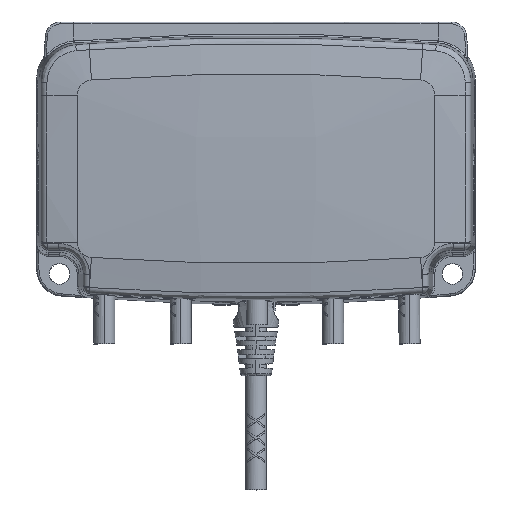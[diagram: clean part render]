
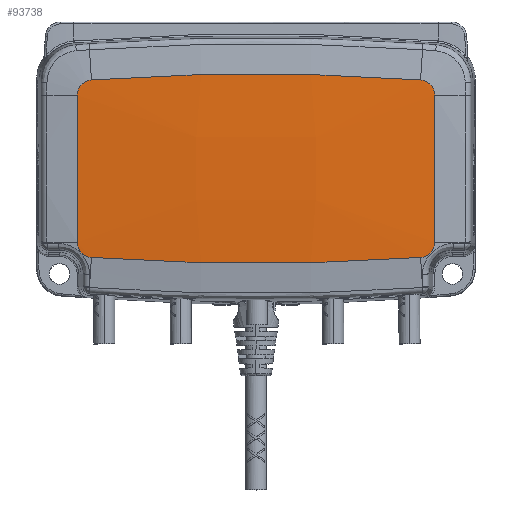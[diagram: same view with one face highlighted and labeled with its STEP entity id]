
A CAD part, top view. The second image highlights one B-rep face of the part: STEP entity #93738.
In plain terms, the highlighted free-form (B-spline) face has degree [3, 3] with [4, 4] control points.
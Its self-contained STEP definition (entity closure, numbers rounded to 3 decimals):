
#66775=CARTESIAN_POINT('',(42.866,19.29,54.457));
#66776=DIRECTION('',(-0.056,-0.033,-0.998));
#66777=DIRECTION('',(0.071,0.997,-0.037));
#66778=AXIS2_PLACEMENT_3D('',#66775,#66776,#66777);
#66780=CARTESIAN_POINT('',(46.854,19.283,54.232));
#66781=CARTESIAN_POINT('',(46.854,15.,54.37));
#66782=CARTESIAN_POINT('',(46.854,6.429,54.552));
#66783=CARTESIAN_POINT('',(46.854,-6.429,
54.552));
#66784=CARTESIAN_POINT('',(46.854,-15.,
54.37));
#66785=CARTESIAN_POINT('',(46.854,-19.283,
54.232));
#66787=CARTESIAN_POINT('',(42.866,-19.29,
54.457));
#66788=DIRECTION('',(-0.056,0.033,-0.998));
#66789=DIRECTION('',(0.998,0.002,-0.056));
#66790=AXIS2_PLACEMENT_3D('',#66787,#66788,#66789);
#66792=CARTESIAN_POINT('',(43.147,-23.272,
54.312));
#66793=CARTESIAN_POINT('',(39.049,-23.574,
54.536));
#66794=CARTESIAN_POINT('',(30.844,-24.09,
54.92));
#66795=CARTESIAN_POINT('',(18.515,-24.607,
55.304));
#66796=CARTESIAN_POINT('',(6.173,-24.865,
55.496));
#66797=CARTESIAN_POINT('',(-6.173,-24.865,
55.496));
#66798=CARTESIAN_POINT('',(-18.515,-24.607,
55.304));
#66799=CARTESIAN_POINT('',(-30.844,-24.09,
54.92));
#66800=CARTESIAN_POINT('',(-39.049,-23.574,
54.536));
#66801=CARTESIAN_POINT('',(-43.147,-23.272,
54.312));
#66803=CARTESIAN_POINT('',(-42.866,-19.29,
54.457));
#66804=DIRECTION('',(0.056,0.033,-0.998));
#66805=DIRECTION('',(-0.07,-0.997,-0.037));
#66806=AXIS2_PLACEMENT_3D('',#66803,#66804,#66805);
#66808=CARTESIAN_POINT('',(-46.854,-19.283,
54.232));
#66809=CARTESIAN_POINT('',(-46.854,-15.,
54.37));
#66810=CARTESIAN_POINT('',(-46.854,-6.429,
54.552));
#66811=CARTESIAN_POINT('',(-46.854,6.429,
54.552));
#66812=CARTESIAN_POINT('',(-46.854,15.,
54.37));
#66813=CARTESIAN_POINT('',(-46.854,19.283,
54.232));
#66815=CARTESIAN_POINT('',(-42.866,19.29,
54.459));
#66816=DIRECTION('',(0.056,-0.033,-0.998));
#66817=DIRECTION('',(-0.998,-0.002,-0.056));
#66818=AXIS2_PLACEMENT_3D('',#66815,#66816,#66817);
#66820=CARTESIAN_POINT('',(-43.147,23.273,
54.312));
#66821=CARTESIAN_POINT('',(-39.049,23.574,
54.536));
#66822=CARTESIAN_POINT('',(-30.844,24.09,
54.92));
#66823=CARTESIAN_POINT('',(-18.515,24.607,
55.304));
#66824=CARTESIAN_POINT('',(-6.173,24.865,
55.496));
#66825=CARTESIAN_POINT('',(6.173,24.865,55.496));
#66826=CARTESIAN_POINT('',(18.515,24.607,55.304));
#66827=CARTESIAN_POINT('',(30.844,24.09,54.92));
#66828=CARTESIAN_POINT('',(39.049,23.574,54.536));
#66829=CARTESIAN_POINT('',(43.147,23.272,54.312));
#79887=CARTESIAN_POINT('',(46.854,-19.283,
54.232));
#79888=VERTEX_POINT('',#79887);
#79893=CARTESIAN_POINT('',(43.147,-23.272,
54.312));
#79894=VERTEX_POINT('',#79893);
#79895=CARTESIAN_POINT('',(46.854,19.283,54.232));
#79896=VERTEX_POINT('',#79895);
#79898=CARTESIAN_POINT('',(43.147,23.272,54.312));
#79900=VERTEX_POINT('',#79898);
#79901=VERTEX_POINT('',#66820);
#79904=VERTEX_POINT('',#66801);
#79905=CARTESIAN_POINT('',(-46.854,-19.283,
54.234));
#79906=VERTEX_POINT('',#79905);
#79907=VERTEX_POINT('',#66813);
#93707=CARTESIAN_POINT('',(48.71,25.858,53.867));
#93708=CARTESIAN_POINT('',(48.758,8.625,54.605));
#93709=CARTESIAN_POINT('',(48.758,-8.625,
54.605));
#93710=CARTESIAN_POINT('',(48.71,-25.858,
53.867));
#93711=CARTESIAN_POINT('',(16.259,25.858,55.972));
#93712=CARTESIAN_POINT('',(16.275,8.625,56.712));
#93713=CARTESIAN_POINT('',(16.275,-8.625,
56.712));
#93714=CARTESIAN_POINT('',(16.259,-25.858,
55.972));
#93715=CARTESIAN_POINT('',(-16.259,25.858,
55.972));
#93716=CARTESIAN_POINT('',(-16.275,8.625,
56.712));
#93717=CARTESIAN_POINT('',(-16.275,-8.625,
56.712));
#93718=CARTESIAN_POINT('',(-16.259,-25.858,
55.972));
#93719=CARTESIAN_POINT('',(-48.71,25.858,
53.867));
#93720=CARTESIAN_POINT('',(-48.758,8.625,
54.605));
#93721=CARTESIAN_POINT('',(-48.758,-8.625,
54.605));
#93722=CARTESIAN_POINT('',(-48.71,-25.858,
53.867));
#93723=(BOUNDED_SURFACE()B_SPLINE_SURFACE(3,3,((#93707,#93708,#93709,#93710),(
#93711,#93712,#93713,#93714),(#93715,#93716,#93717,#93718),(#93719,#93720,
#93721,#93722)),.UNSPECIFIED.,.F.,.F.,.F.)B_SPLINE_SURFACE_WITH_KNOTS((4,4),(4,
4),(0.,1.),(0.,1.),.UNSPECIFIED.)GEOMETRIC_REPRESENTATION_ITEM()RATIONAL_B_SPLINE_SURFACE(((1.002,1.001,1.001,
1.002),(1.,0.999,0.999,
1.),(1.,0.999,0.999,
1.),(1.002,1.001,1.001,
1.002)))REPRESENTATION_ITEM('')SURFACE());
#93724=ORIENTED_EDGE('',*,*,#93667,.T.);
#93725=ORIENTED_EDGE('',*,*,#93650,.T.);
#93726=ORIENTED_EDGE('',*,*,#93616,.T.);
#93728=ORIENTED_EDGE('',*,*,#93727,.T.);
#93730=ORIENTED_EDGE('',*,*,#93729,.T.);
#93732=ORIENTED_EDGE('',*,*,#93731,.T.);
#93734=ORIENTED_EDGE('',*,*,#93733,.T.);
#93735=ORIENTED_EDGE('',*,*,#93698,.T.);
#93736=EDGE_LOOP('',(#93724,#93725,#93726,#93728,#93730,#93732,#93734,#93735));
#93737=FACE_OUTER_BOUND('',#93736,.F.);
#66779=CIRCLE('',#66778,3.995);
#66786=B_SPLINE_CURVE_WITH_KNOTS('',3,(#66780,#66781,#66782,#66783,#66784,
#66785),.UNSPECIFIED.,.F.,.F.,(4,1,1,4),(0.,0.333,
0.667,1.),.UNSPECIFIED.);
#66791=CIRCLE('',#66790,3.995);
#66802=B_SPLINE_CURVE_WITH_KNOTS('',3,(#66792,#66793,#66794,#66795,#66796,
#66797,#66798,#66799,#66800,#66801),.UNSPECIFIED.,.F.,.F.,(4,1,1,1,1,1,1,4),(
0.,0.143,0.286,0.429,0.571,
0.714,0.857,1.),.UNSPECIFIED.);
#66807=CIRCLE('',#66806,3.995);
#66814=B_SPLINE_CURVE_WITH_KNOTS('',3,(#66808,#66809,#66810,#66811,#66812,
#66813),.UNSPECIFIED.,.F.,.F.,(4,1,1,4),(0.,0.333,
0.667,1.),.UNSPECIFIED.);
#66819=CIRCLE('',#66818,3.995);
#66830=B_SPLINE_CURVE_WITH_KNOTS('',3,(#66820,#66821,#66822,#66823,#66824,
#66825,#66826,#66827,#66828,#66829),.UNSPECIFIED.,.F.,.F.,(4,1,1,1,1,1,1,4),(
0.,0.143,0.286,0.429,0.571,
0.714,0.857,1.),.UNSPECIFIED.);
#93616=EDGE_CURVE('',#79888,#79894,#66791,.T.);
#93650=EDGE_CURVE('',#79896,#79888,#66786,.T.);
#93667=EDGE_CURVE('',#79900,#79896,#66779,.T.);
#93698=EDGE_CURVE('',#79901,#79900,#66830,.T.);
#93727=EDGE_CURVE('',#79894,#79904,#66802,.T.);
#93729=EDGE_CURVE('',#79904,#79906,#66807,.T.);
#93731=EDGE_CURVE('',#79906,#79907,#66814,.T.);
#93733=EDGE_CURVE('',#79907,#79901,#66819,.T.);
#93738=ADVANCED_FACE('',(#93737),#93723,.T.);
